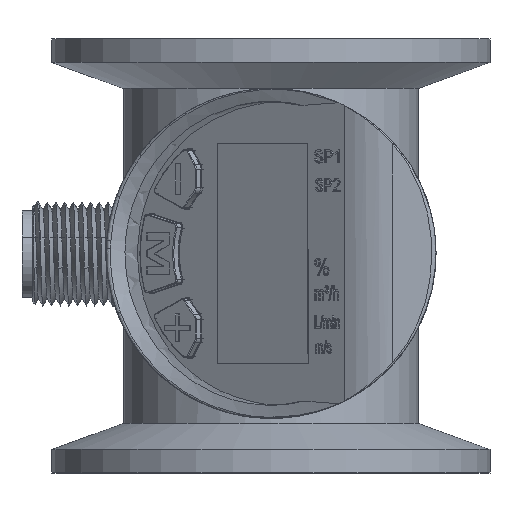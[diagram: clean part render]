
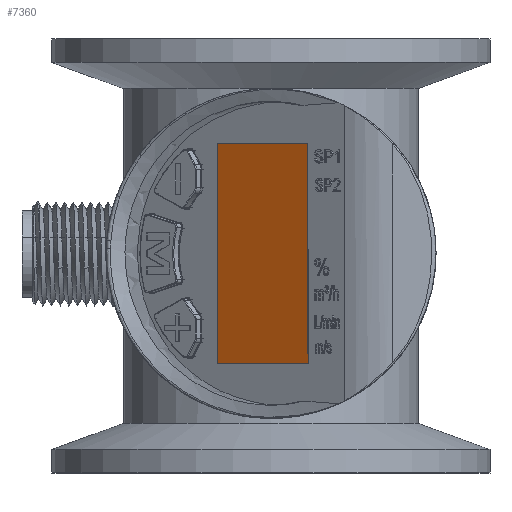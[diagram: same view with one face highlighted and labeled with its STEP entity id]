
A CAD part, top view. The second image highlights one B-rep face of the part: STEP entity #7360.
In plain terms, the highlighted planar face has unit normal (-0.588, 0, 0.809).
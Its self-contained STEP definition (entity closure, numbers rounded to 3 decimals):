
#5427=FACE_OUTER_BOUND('',#9304,.T.);
#7360=ADVANCED_FACE('',(#5427),#8036,.F.);
#8036=PLANE('',#21995);
#9304=EDGE_LOOP('',(#13166,#13167,#13168,#13169));
#13166=ORIENTED_EDGE('',*,*,#18206,.F.);
#13167=ORIENTED_EDGE('',*,*,#18207,.T.);
#13168=ORIENTED_EDGE('',*,*,#18208,.F.);
#13169=ORIENTED_EDGE('',*,*,#18209,.F.);
#16180=VERTEX_POINT('',#36795);
#16181=VERTEX_POINT('',#36796);
#16182=VERTEX_POINT('',#36798);
#16183=VERTEX_POINT('',#36800);
#18206=EDGE_CURVE('',#16180,#16181,#19843,.T.);
#18207=EDGE_CURVE('',#16180,#16182,#19844,.T.);
#18208=EDGE_CURVE('',#16183,#16182,#19845,.T.);
#18209=EDGE_CURVE('',#16181,#16183,#19846,.T.);
#19843=LINE('',#36794,#20986);
#19844=LINE('',#36797,#20987);
#19845=LINE('',#36799,#20988);
#19846=LINE('',#36801,#20989);
#20986=VECTOR('',#24803,1.);
#20987=VECTOR('',#24804,1.);
#20988=VECTOR('',#24805,1.);
#20989=VECTOR('',#24806,1.);
#21995=AXIS2_PLACEMENT_3D('',#36802,#24807,#24808);
#24803=DIRECTION('',(-0.809,0.,-0.588));
#24804=DIRECTION('',(-0.002,1.,-0.002));
#24805=DIRECTION('',(0.809,0.,0.588));
#24806=DIRECTION('',(0.,1.,0.));
#24807=DIRECTION('',(0.588,0.,-0.809));
#24808=DIRECTION('',(-0.809,0.,-0.588));
#36794=CARTESIAN_POINT('',(10.243,23.701,54.392));
#36795=CARTESIAN_POINT('',(29.802,23.701,68.602));
#36796=CARTESIAN_POINT('',(19.425,23.701,61.063));
#36797=CARTESIAN_POINT('',(29.771,36.474,68.579));
#36798=CARTESIAN_POINT('',(29.74,49.101,68.557));
#36799=CARTESIAN_POINT('',(10.243,49.101,54.392));
#36800=CARTESIAN_POINT('',(19.425,49.101,61.063));
#36801=CARTESIAN_POINT('',(19.425,36.401,61.063));
#36802=CARTESIAN_POINT('',(10.243,36.401,54.392));
